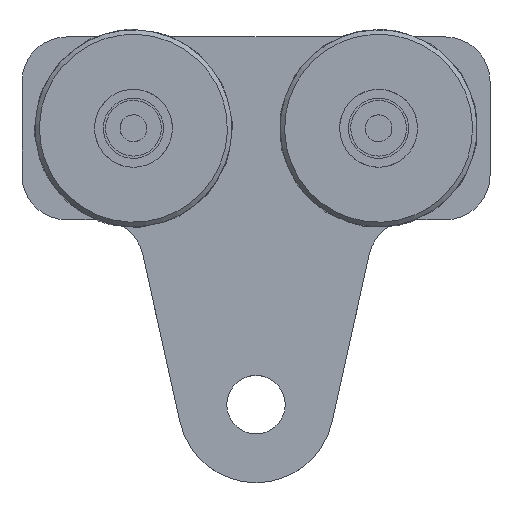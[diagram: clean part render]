
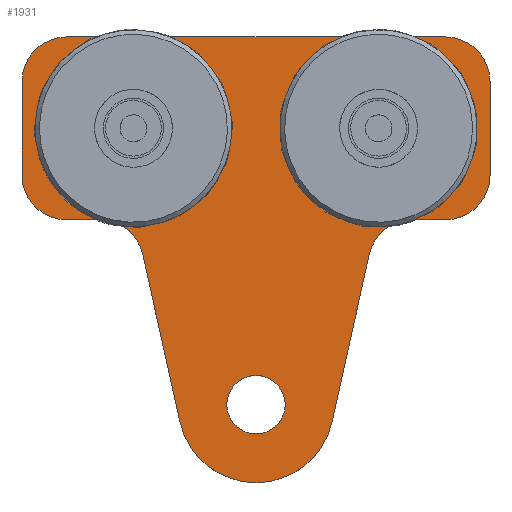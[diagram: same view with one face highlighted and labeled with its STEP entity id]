
A CAD part, top view. The second image highlights one B-rep face of the part: STEP entity #1931.
In plain terms, the highlighted planar face has unit normal (0, 0, 1).
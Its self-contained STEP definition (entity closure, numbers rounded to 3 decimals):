
#201=LINE('',#2855,#303);
#205=LINE('',#2863,#307);
#208=LINE('',#2869,#310);
#212=LINE('',#2881,#314);
#215=LINE('',#2887,#317);
#218=LINE('',#2893,#320);
#221=LINE('',#2903,#323);
#226=LINE('',#2917,#328);
#229=LINE('',#2923,#331);
#232=LINE('',#2929,#334);
#236=LINE('',#2941,#338);
#239=LINE('',#2946,#341);
#243=LINE('',#2959,#345);
#247=LINE('',#2971,#349);
#251=LINE('',#2983,#353);
#255=LINE('',#2995,#357);
#259=LINE('',#3007,#361);
#263=LINE('',#3019,#365);
#267=LINE('',#3030,#369);
#303=VECTOR('',#2272,3.87);
#307=VECTOR('',#2278,8.);
#310=VECTOR('',#2283,3.87);
#314=VECTOR('',#2295,3.87);
#317=VECTOR('',#2300,8.);
#320=VECTOR('',#2305,3.87);
#323=VECTOR('',#2316,3.87);
#328=VECTOR('',#2329,3.87);
#331=VECTOR('',#2334,8.);
#334=VECTOR('',#2339,3.87);
#338=VECTOR('',#2351,3.87);
#341=VECTOR('',#2356,8.);
#345=VECTOR('',#2368,14.698);
#349=VECTOR('',#2380,76.723);
#353=VECTOR('',#2392,76.723);
#357=VECTOR('',#2404,14.698);
#361=VECTOR('',#2416,42.);
#365=VECTOR('',#2428,170.);
#369=VECTOR('',#2440,42.);
#425=PLANE('',#2078);
#462=FACE_BOUND('',#668,.T.);
#463=FACE_BOUND('',#669,.T.);
#464=FACE_BOUND('',#670,.T.);
#555=FACE_OUTER_BOUND('',#667,.T.);
#667=EDGE_LOOP('',(#1504,#1505,#1506,#1507,#1508,#1509,#1510,#1511,#1512,
#1513,#1514,#1515,#1516,#1517));
#668=EDGE_LOOP('',(#1518));
#669=EDGE_LOOP('',(#1519,#1520,#1521,#1522,#1523,#1524,#1525,#1526));
#670=EDGE_LOOP('',(#1527,#1528,#1529,#1530,#1531,#1532,#1533,#1534));
#805=CIRCLE('',#2024,13.1);
#806=CIRCLE('',#2029,10.);
#808=CIRCLE('',#2035,10.);
#810=CIRCLE('',#2039,10.);
#812=CIRCLE('',#2045,10.);
#814=CIRCLE('',#2050,20.);
#816=CIRCLE('',#2054,20.);
#818=CIRCLE('',#2058,35.);
#820=CIRCLE('',#2062,20.);
#822=CIRCLE('',#2066,20.);
#824=CIRCLE('',#2070,20.);
#826=CIRCLE('',#2074,20.);
#905=VERTEX_POINT('',#2850);
#906=VERTEX_POINT('',#2853);
#907=VERTEX_POINT('',#2854);
#910=VERTEX_POINT('',#2862);
#912=VERTEX_POINT('',#2868);
#914=VERTEX_POINT('',#2874);
#916=VERTEX_POINT('',#2880);
#918=VERTEX_POINT('',#2886);
#920=VERTEX_POINT('',#2892);
#922=VERTEX_POINT('',#2901);
#923=VERTEX_POINT('',#2902);
#926=VERTEX_POINT('',#2910);
#928=VERTEX_POINT('',#2916);
#930=VERTEX_POINT('',#2922);
#932=VERTEX_POINT('',#2928);
#934=VERTEX_POINT('',#2934);
#936=VERTEX_POINT('',#2940);
#938=VERTEX_POINT('',#2949);
#939=VERTEX_POINT('',#2950);
#942=VERTEX_POINT('',#2958);
#944=VERTEX_POINT('',#2964);
#946=VERTEX_POINT('',#2970);
#948=VERTEX_POINT('',#2976);
#950=VERTEX_POINT('',#2982);
#952=VERTEX_POINT('',#2988);
#954=VERTEX_POINT('',#2994);
#956=VERTEX_POINT('',#3000);
#958=VERTEX_POINT('',#3006);
#960=VERTEX_POINT('',#3012);
#962=VERTEX_POINT('',#3018);
#964=VERTEX_POINT('',#3024);
#1093=EDGE_CURVE('',#905,#905,#805,.T.);
#1094=EDGE_CURVE('',#906,#907,#201,.T.);
#1098=EDGE_CURVE('',#907,#910,#205,.T.);
#1101=EDGE_CURVE('',#910,#912,#208,.T.);
#1104=EDGE_CURVE('',#912,#914,#806,.T.);
#1107=EDGE_CURVE('',#914,#916,#212,.T.);
#1110=EDGE_CURVE('',#916,#918,#215,.T.);
#1113=EDGE_CURVE('',#918,#920,#218,.T.);
#1116=EDGE_CURVE('',#920,#906,#808,.T.);
#1118=EDGE_CURVE('',#922,#923,#221,.T.);
#1122=EDGE_CURVE('',#923,#926,#810,.T.);
#1125=EDGE_CURVE('',#926,#928,#226,.T.);
#1128=EDGE_CURVE('',#928,#930,#229,.T.);
#1131=EDGE_CURVE('',#930,#932,#232,.T.);
#1134=EDGE_CURVE('',#932,#934,#812,.T.);
#1137=EDGE_CURVE('',#934,#936,#236,.T.);
#1140=EDGE_CURVE('',#936,#922,#239,.T.);
#1142=EDGE_CURVE('',#938,#939,#814,.T.);
#1146=EDGE_CURVE('',#939,#942,#243,.T.);
#1149=EDGE_CURVE('',#942,#944,#816,.T.);
#1152=EDGE_CURVE('',#944,#946,#247,.T.);
#1155=EDGE_CURVE('',#946,#948,#818,.T.);
#1158=EDGE_CURVE('',#948,#950,#251,.T.);
#1161=EDGE_CURVE('',#950,#952,#820,.T.);
#1164=EDGE_CURVE('',#952,#954,#255,.T.);
#1167=EDGE_CURVE('',#954,#956,#822,.T.);
#1170=EDGE_CURVE('',#956,#958,#259,.T.);
#1173=EDGE_CURVE('',#958,#960,#824,.T.);
#1176=EDGE_CURVE('',#960,#962,#263,.T.);
#1179=EDGE_CURVE('',#962,#964,#826,.T.);
#1182=EDGE_CURVE('',#964,#938,#267,.T.);
#1504=ORIENTED_EDGE('',*,*,#1142,.F.);
#1505=ORIENTED_EDGE('',*,*,#1182,.F.);
#1506=ORIENTED_EDGE('',*,*,#1179,.F.);
#1507=ORIENTED_EDGE('',*,*,#1176,.F.);
#1508=ORIENTED_EDGE('',*,*,#1173,.F.);
#1509=ORIENTED_EDGE('',*,*,#1170,.F.);
#1510=ORIENTED_EDGE('',*,*,#1167,.F.);
#1511=ORIENTED_EDGE('',*,*,#1164,.F.);
#1512=ORIENTED_EDGE('',*,*,#1161,.F.);
#1513=ORIENTED_EDGE('',*,*,#1158,.F.);
#1514=ORIENTED_EDGE('',*,*,#1155,.F.);
#1515=ORIENTED_EDGE('',*,*,#1152,.F.);
#1516=ORIENTED_EDGE('',*,*,#1149,.F.);
#1517=ORIENTED_EDGE('',*,*,#1146,.F.);
#1518=ORIENTED_EDGE('',*,*,#1093,.T.);
#1519=ORIENTED_EDGE('',*,*,#1094,.T.);
#1520=ORIENTED_EDGE('',*,*,#1098,.T.);
#1521=ORIENTED_EDGE('',*,*,#1101,.T.);
#1522=ORIENTED_EDGE('',*,*,#1104,.T.);
#1523=ORIENTED_EDGE('',*,*,#1107,.T.);
#1524=ORIENTED_EDGE('',*,*,#1110,.T.);
#1525=ORIENTED_EDGE('',*,*,#1113,.T.);
#1526=ORIENTED_EDGE('',*,*,#1116,.T.);
#1527=ORIENTED_EDGE('',*,*,#1118,.T.);
#1528=ORIENTED_EDGE('',*,*,#1122,.T.);
#1529=ORIENTED_EDGE('',*,*,#1125,.T.);
#1530=ORIENTED_EDGE('',*,*,#1128,.T.);
#1531=ORIENTED_EDGE('',*,*,#1131,.T.);
#1532=ORIENTED_EDGE('',*,*,#1134,.T.);
#1533=ORIENTED_EDGE('',*,*,#1137,.T.);
#1534=ORIENTED_EDGE('',*,*,#1140,.T.);
#1931=ADVANCED_FACE('',(#555,#462,#463,#464),#425,.T.);
#2024=AXIS2_PLACEMENT_3D('',#2851,#2268,#2269);
#2029=AXIS2_PLACEMENT_3D('',#2875,#2288,#2289);
#2035=AXIS2_PLACEMENT_3D('',#2898,#2310,#2311);
#2039=AXIS2_PLACEMENT_3D('',#2911,#2322,#2323);
#2045=AXIS2_PLACEMENT_3D('',#2935,#2344,#2345);
#2050=AXIS2_PLACEMENT_3D('',#2951,#2360,#2361);
#2054=AXIS2_PLACEMENT_3D('',#2965,#2373,#2374);
#2058=AXIS2_PLACEMENT_3D('',#2977,#2385,#2386);
#2062=AXIS2_PLACEMENT_3D('',#2989,#2397,#2398);
#2066=AXIS2_PLACEMENT_3D('',#3001,#2409,#2410);
#2070=AXIS2_PLACEMENT_3D('',#3013,#2421,#2422);
#2074=AXIS2_PLACEMENT_3D('',#3025,#2433,#2434);
#2078=AXIS2_PLACEMENT_3D('',#3033,#2444,#2445);
#2268=DIRECTION('center_axis',(0.,0.,-1.));
#2269=DIRECTION('ref_axis',(1.,0.,0.));
#2272=DIRECTION('',(1.,0.,0.));
#2278=DIRECTION('',(0.,-1.,0.));
#2283=DIRECTION('',(-1.,0.,0.));
#2288=DIRECTION('center_axis',(0.,0.,-1.));
#2289=DIRECTION('ref_axis',(0.933,0.36,0.));
#2295=DIRECTION('',(-1.,0.,0.));
#2300=DIRECTION('',(0.,1.,0.));
#2305=DIRECTION('',(1.,0.,0.));
#2310=DIRECTION('center_axis',(0.,0.,-1.));
#2311=DIRECTION('ref_axis',(-0.933,-0.36,0.));
#2316=DIRECTION('',(1.,0.,0.));
#2322=DIRECTION('center_axis',(0.,0.,-1.));
#2323=DIRECTION('ref_axis',(0.933,0.36,0.));
#2329=DIRECTION('',(1.,0.,0.));
#2334=DIRECTION('',(0.,-1.,0.));
#2339=DIRECTION('',(-1.,0.,0.));
#2344=DIRECTION('center_axis',(0.,0.,-1.));
#2345=DIRECTION('ref_axis',(-0.933,-0.36,0.));
#2351=DIRECTION('',(-1.,0.,0.));
#2356=DIRECTION('',(0.,1.,0.));
#2360=DIRECTION('center_axis',(0.,0.,-1.));
#2361=DIRECTION('ref_axis',(0.,1.,0.));
#2368=DIRECTION('',(1.,0.,0.));
#2373=DIRECTION('center_axis',(0.,0.,1.));
#2374=DIRECTION('ref_axis',(0.,1.,0.));
#2380=DIRECTION('',(0.216,0.976,0.));
#2385=DIRECTION('center_axis',(0.,0.,-1.));
#2386=DIRECTION('ref_axis',(0.976,0.216,0.));
#2392=DIRECTION('',(0.216,-0.976,0.));
#2397=DIRECTION('center_axis',(0.,0.,1.));
#2398=DIRECTION('ref_axis',(0.976,0.216,0.));
#2404=DIRECTION('',(1.,0.,0.));
#2409=DIRECTION('center_axis',(0.,0.,-1.));
#2410=DIRECTION('ref_axis',(1.,0.,0.));
#2416=DIRECTION('',(0.,-1.,0.));
#2421=DIRECTION('center_axis',(0.,0.,-1.));
#2422=DIRECTION('ref_axis',(0.,-1.,0.));
#2428=DIRECTION('',(-1.,0.,0.));
#2433=DIRECTION('center_axis',(0.,0.,-1.));
#2434=DIRECTION('ref_axis',(-1.,0.,0.));
#2440=DIRECTION('',(0.,1.,0.));
#2444=DIRECTION('center_axis',(0.,0.,1.));
#2445=DIRECTION('ref_axis',(1.,0.,0.));
#2850=CARTESIAN_POINT('',(13.1,124.,15.));
#2851=CARTESIAN_POINT('Origin',(0.,124.,15.));
#2853=CARTESIAN_POINT('',(64.33,4.,15.));
#2854=CARTESIAN_POINT('',(68.2,4.,15.));
#2855=CARTESIAN_POINT('',(32.165,4.,15.));
#2862=CARTESIAN_POINT('',(68.2,-4.,15.));
#2863=CARTESIAN_POINT('',(68.2,19.698,15.));
#2868=CARTESIAN_POINT('',(64.33,-4.,15.));
#2869=CARTESIAN_POINT('',(34.1,-4.,15.));
#2874=CARTESIAN_POINT('',(45.67,-4.,15.));
#2875=CARTESIAN_POINT('Origin',(55.,-0.4,15.));
#2880=CARTESIAN_POINT('',(41.8,-4.,15.));
#2881=CARTESIAN_POINT('',(22.835,-4.,15.));
#2886=CARTESIAN_POINT('',(41.8,4.,15.));
#2887=CARTESIAN_POINT('',(41.8,15.698,15.));
#2892=CARTESIAN_POINT('',(45.67,4.,15.));
#2893=CARTESIAN_POINT('',(20.9,4.,15.));
#2898=CARTESIAN_POINT('Origin',(55.,0.4,15.));
#2901=CARTESIAN_POINT('',(-68.2,4.,15.));
#2902=CARTESIAN_POINT('',(-64.33,4.,15.));
#2903=CARTESIAN_POINT('',(-34.1,4.,15.));
#2910=CARTESIAN_POINT('',(-45.67,4.,15.));
#2911=CARTESIAN_POINT('Origin',(-55.,0.4,15.));
#2916=CARTESIAN_POINT('',(-41.8,4.,15.));
#2917=CARTESIAN_POINT('',(-22.835,4.,15.));
#2922=CARTESIAN_POINT('',(-41.8,-4.,15.));
#2923=CARTESIAN_POINT('',(-41.8,19.698,15.));
#2928=CARTESIAN_POINT('',(-45.67,-4.,15.));
#2929=CARTESIAN_POINT('',(-20.9,-4.,15.));
#2934=CARTESIAN_POINT('',(-64.33,-4.,15.));
#2935=CARTESIAN_POINT('Origin',(-55.,-0.4,15.));
#2940=CARTESIAN_POINT('',(-68.2,-4.,15.));
#2941=CARTESIAN_POINT('',(-32.165,-4.,15.));
#2946=CARTESIAN_POINT('',(-68.2,15.698,15.));
#2949=CARTESIAN_POINT('',(-105.,21.,15.));
#2950=CARTESIAN_POINT('',(-85.,41.,15.));
#2951=CARTESIAN_POINT('Origin',(-85.,21.,15.));
#2958=CARTESIAN_POINT('',(-70.302,41.,15.));
#2959=CARTESIAN_POINT('',(-70.302,41.,15.));
#2964=CARTESIAN_POINT('',(-50.776,56.671,15.));
#2965=CARTESIAN_POINT('Origin',(-70.302,61.,15.));
#2970=CARTESIAN_POINT('',(-34.17,131.575,15.));
#2971=CARTESIAN_POINT('',(-34.17,131.575,15.));
#2976=CARTESIAN_POINT('',(34.17,131.575,15.));
#2977=CARTESIAN_POINT('Origin',(0.,124.,15.));
#2982=CARTESIAN_POINT('',(50.776,56.671,15.));
#2983=CARTESIAN_POINT('',(50.776,56.671,15.));
#2988=CARTESIAN_POINT('',(70.302,41.,15.));
#2989=CARTESIAN_POINT('Origin',(70.302,61.,15.));
#2994=CARTESIAN_POINT('',(85.,41.,15.));
#2995=CARTESIAN_POINT('',(85.,41.,15.));
#3000=CARTESIAN_POINT('',(105.,21.,15.));
#3001=CARTESIAN_POINT('Origin',(85.,21.,15.));
#3006=CARTESIAN_POINT('',(105.,-21.,15.));
#3007=CARTESIAN_POINT('',(105.,-21.,15.));
#3012=CARTESIAN_POINT('',(85.,-41.,15.));
#3013=CARTESIAN_POINT('Origin',(85.,-21.,15.));
#3018=CARTESIAN_POINT('',(-85.,-41.,15.));
#3019=CARTESIAN_POINT('',(-85.,-41.,15.));
#3024=CARTESIAN_POINT('',(-105.,-21.,15.));
#3025=CARTESIAN_POINT('Origin',(-85.,-21.,15.));
#3030=CARTESIAN_POINT('',(-105.,21.,15.));
#3033=CARTESIAN_POINT('Origin',(0.,35.396,15.));
